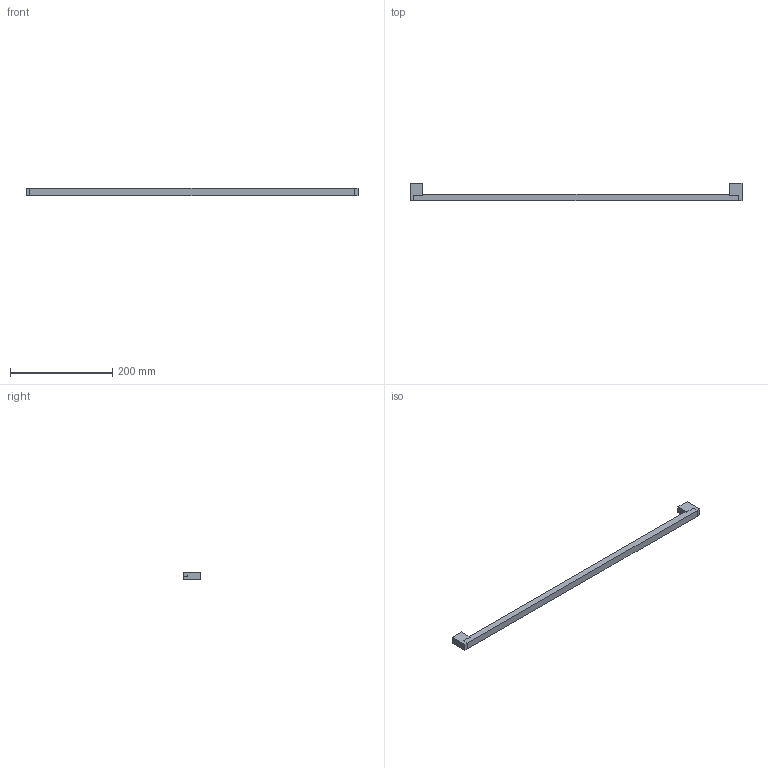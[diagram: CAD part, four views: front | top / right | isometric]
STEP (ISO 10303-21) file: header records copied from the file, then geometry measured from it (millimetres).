
FILE_DESCRIPTION( ( '' ), '1' );
FILE_NAME( 'D:/1.AUTOCAD EXPORT/Group 10/sheet_10_1/9071755.stp', '2013-10-16T10:51:57', ( '' ), ( '' ), ' ', ' ', ' ' );
FILE_SCHEMA( ( 'automotive_design' ) );
Length unit declared in the file: millimetre
Products named in the file (1): 1
Bounding box: 648 x 35 x 14 mm (x, y, z)
Volume: 133128.9 mm3; surface area: 39049.4 mm2
Topology: 1 solids, 1 shells, 44 faces, 120 edges, 80 vertices
Faces by surface type: plane 40, cylinder 4
Entity records: 2748 total; most frequent: STYLED_ITEM 245, PRESENTATION_STYLE_ASSIGNMENT 245, CARTESIAN_POINT 245, COLOUR_RGB 245, ORIENTED_EDGE 240, DIRECTION 218, EDGE_CURVE 120, CURVE_STYLE 120
